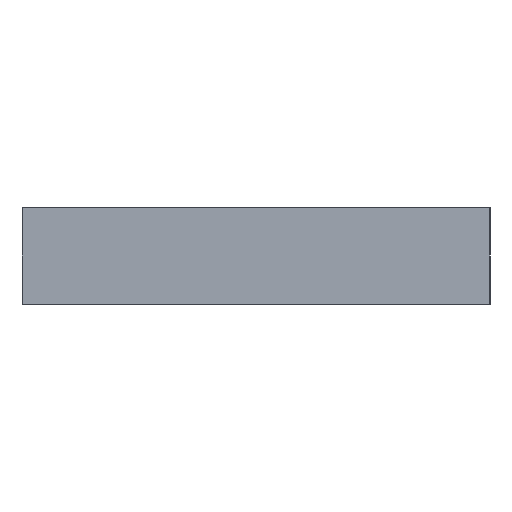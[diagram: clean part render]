
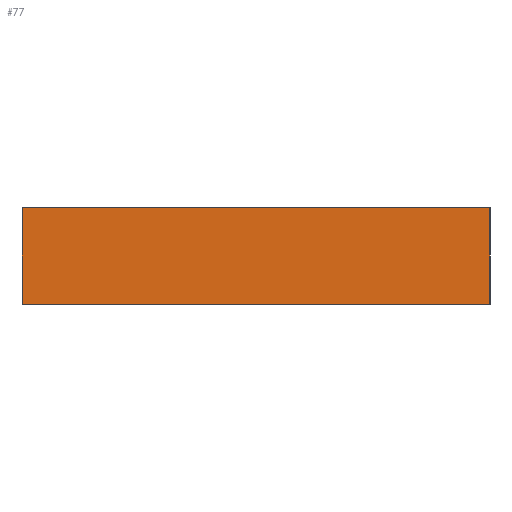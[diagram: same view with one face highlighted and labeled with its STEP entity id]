
A CAD part, left-side view. The second image highlights one B-rep face of the part: STEP entity #77.
In plain terms, the highlighted planar face has unit normal (-1, 0, 0).
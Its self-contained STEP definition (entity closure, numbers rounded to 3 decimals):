
#77 = ADVANCED_FACE( '', ( #150 ), #151, .F. );
#150 = FACE_OUTER_BOUND( '', #220, .T. );
#151 = PLANE( '', #221 );
#220 = EDGE_LOOP( '', ( #295, #296, #297, #298 ) );
#221 = AXIS2_PLACEMENT_3D( '', #299, #300, #301 );
#295 = ORIENTED_EDGE( '', *, *, #396, .T. );
#296 = ORIENTED_EDGE( '', *, *, #391, .F. );
#297 = ORIENTED_EDGE( '', *, *, #397, .F. );
#298 = ORIENTED_EDGE( '', *, *, #398, .T. );
#299 = CARTESIAN_POINT( '', ( -6., 0., 3.5 ) );
#300 = DIRECTION( '', ( 1., 0., 0. ) );
#301 = DIRECTION( '', ( 0., 0., -1. ) );
#391 = EDGE_CURVE( '', #444, #439, #446, .T. );
#396 = EDGE_CURVE( '', #452, #439, #453, .T. );
#397 = EDGE_CURVE( '', #454, #444, #455, .T. );
#398 = EDGE_CURVE( '', #454, #452, #456, .T. );
#439 = VERTEX_POINT( '', #507 );
#444 = VERTEX_POINT( '', #514 );
#446 = LINE( '', #517, #518 );
#452 = VERTEX_POINT( '', #524 );
#453 = LINE( '', #525, #526 );
#454 = VERTEX_POINT( '', #527 );
#455 = LINE( '', #528, #529 );
#456 = LINE( '', #530, #531 );
#507 = CARTESIAN_POINT( '', ( -6., -34., -3.5 ) );
#514 = CARTESIAN_POINT( '', ( -6., -34., 3.5 ) );
#517 = CARTESIAN_POINT( '', ( -6., -34., 3.5 ) );
#518 = VECTOR( '', #598, 1000. );
#524 = CARTESIAN_POINT( '', ( -6., 0., -3.5 ) );
#525 = CARTESIAN_POINT( '', ( -6., 0., -3.5 ) );
#526 = VECTOR( '', #602, 1000. );
#527 = CARTESIAN_POINT( '', ( -6., 0., 3.5 ) );
#528 = CARTESIAN_POINT( '', ( -6., 0., 3.5 ) );
#529 = VECTOR( '', #603, 1000. );
#530 = CARTESIAN_POINT( '', ( -6., 0., 3.5 ) );
#531 = VECTOR( '', #604, 1000. );
#598 = DIRECTION( '', ( 0., 0., -1. ) );
#602 = DIRECTION( '', ( 0., -1., 0. ) );
#603 = DIRECTION( '', ( 0., -1., 0. ) );
#604 = DIRECTION( '', ( 0., 0., -1. ) );
